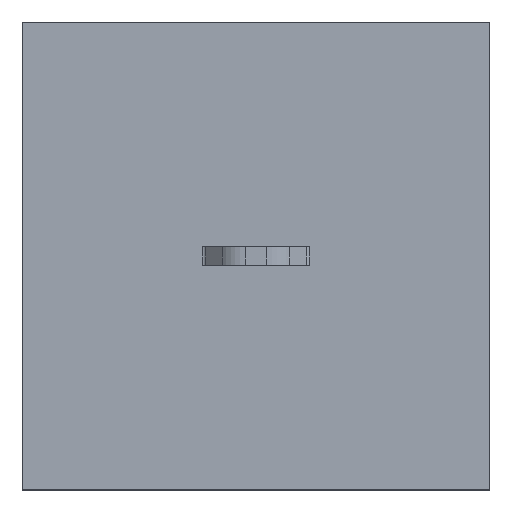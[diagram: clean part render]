
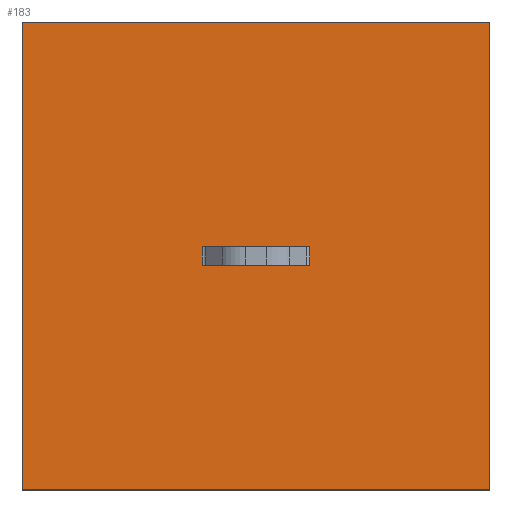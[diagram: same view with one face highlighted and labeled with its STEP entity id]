
A CAD part, top view. The second image highlights one B-rep face of the part: STEP entity #183.
In plain terms, the highlighted planar face has unit normal (0, 0, 1).
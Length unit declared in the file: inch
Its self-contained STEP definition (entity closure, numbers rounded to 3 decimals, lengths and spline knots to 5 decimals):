
#57=CARTESIAN_POINT('',(16.79809,1.67585,-4.18524));
#58=VERTEX_POINT('',#57);
#65=CARTESIAN_POINT('',(14.79809,1.67585,-4.18524));
#66=VERTEX_POINT('',#65);
#67=CARTESIAN_POINT('',(15.50646,1.67585,-4.18524));
#68=DIRECTION('',(1.,0.,0.));
#69=VECTOR('',#68,1.);
#70=LINE('',#67,#69);
#71=EDGE_CURVE('',#66,#58,#70,.T.);
#96=CARTESIAN_POINT('',(14.79809,3.67585,-4.18524));
#97=VERTEX_POINT('',#96);
#98=CARTESIAN_POINT('',(14.79809,19.36002,-4.18524));
#99=DIRECTION('',(0.,-1.,0.));
#100=VECTOR('',#99,1.);
#101=LINE('',#98,#100);
#102=EDGE_CURVE('',#97,#66,#101,.T.);
#126=ORIENTED_EDGE('',*,*,#71,.T.);
#127=CARTESIAN_POINT('',(16.79809,3.67585,-4.18524));
#128=VERTEX_POINT('',#127);
#129=CARTESIAN_POINT('',(16.79809,-2.88076,-4.18524));
#130=DIRECTION('',(0.,1.,0.));
#131=VECTOR('',#130,1.);
#132=LINE('',#129,#131);
#133=EDGE_CURVE('',#58,#128,#132,.T.);
#134=ORIENTED_EDGE('',*,*,#133,.T.);
#135=CARTESIAN_POINT('',(32.34674,3.67585,-4.18524));
#136=DIRECTION('',(-1.,0.,0.));
#137=VECTOR('',#136,1.);
#138=LINE('',#135,#137);
#139=EDGE_CURVE('',#128,#97,#138,.T.);
#140=ORIENTED_EDGE('',*,*,#139,.T.);
#141=ORIENTED_EDGE('',*,*,#102,.T.);
#142=EDGE_LOOP('',(#126,#134,#140,#141));
#143=FACE_OUTER_BOUND('',#142,.T.);
#144=CARTESIAN_POINT('',(15.56863,2.63648,-4.18524));
#145=VERTEX_POINT('',#144);
#146=CARTESIAN_POINT('',(15.56863,2.71522,-4.18524));
#147=VERTEX_POINT('',#146);
#148=CARTESIAN_POINT('',(15.56863,2.63648,-4.18524));
#149=DIRECTION('',(0.,1.,0.));
#150=VECTOR('',#149,0.07874);
#151=LINE('',#148,#150);
#152=EDGE_CURVE('',#145,#147,#151,.T.);
#153=ORIENTED_EDGE('',*,*,#152,.T.);
#154=CARTESIAN_POINT('',(16.02756,2.71522,-4.18524));
#155=VERTEX_POINT('',#154);
#156=CARTESIAN_POINT('',(16.02756,2.71522,-4.18524));
#157=DIRECTION('',(-1.,0.,0.));
#158=VECTOR('',#157,0.45893);
#159=LINE('',#156,#158);
#160=EDGE_CURVE('',#155,#147,#159,.T.);
#161=ORIENTED_EDGE('',*,*,#160,.F.);
#162=CARTESIAN_POINT('',(16.02756,2.63648,-4.18524));
#163=VERTEX_POINT('',#162);
#164=CARTESIAN_POINT('',(16.02756,2.71522,-4.18524));
#165=DIRECTION('',(0.,-1.,0.));
#166=VECTOR('',#165,0.07874);
#167=LINE('',#164,#166);
#168=EDGE_CURVE('',#155,#163,#167,.T.);
#169=ORIENTED_EDGE('',*,*,#168,.T.);
#170=CARTESIAN_POINT('',(16.02756,2.63648,-4.18524));
#171=DIRECTION('',(-1.,0.,0.));
#172=VECTOR('',#171,0.45893);
#173=LINE('',#170,#172);
#174=EDGE_CURVE('',#163,#145,#173,.T.);
#175=ORIENTED_EDGE('',*,*,#174,.T.);
#176=EDGE_LOOP('',(#153,#161,#169,#175));
#177=FACE_BOUND('',#176,.T.);
#178=CARTESIAN_POINT('',(21.78628,7.65223,-4.18524));
#179=DIRECTION('',(0.,0.,1.));
#180=DIRECTION('',(0.,-1.,0.));
#181=AXIS2_PLACEMENT_3D('',#178,#179,#180);
#182=PLANE('',#181);
#183=ADVANCED_FACE('',(#143,#177),#182,.T.);
